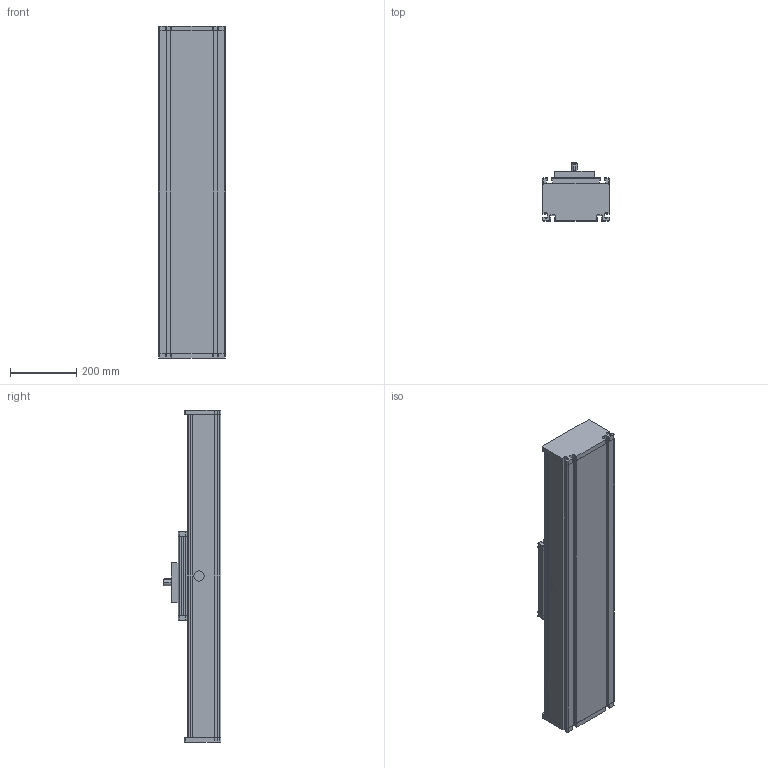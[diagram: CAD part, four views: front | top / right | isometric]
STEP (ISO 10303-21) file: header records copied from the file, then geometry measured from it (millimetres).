
FILE_DESCRIPTION (( 'STEP AP214' ), '1' );
FILE_NAME ('DSZA200.STEP', '2022-07-21T13:06:03', ( '' ), ( '' ), 'SwSTEP 2.0', 'SolidWorks 2020', '' );
FILE_SCHEMA (( 'AUTOMOTIVE_DESIGN' ));
Length unit declared in the file: millimetre
Products named in the file (5): end plate^DSZA200_0; profile^DSZA200_standard; bearing block^DSZA200_lubrication pos.1; carriage^DSZA200_carriage version 0; DSZA200
Assembly tree (5 placements, depth 2):
  DSZA200
    profile^DSZA200_standard
    carriage^DSZA200_carriage version 0
    bearing block^DSZA200_lubrication pos.1
    end plate^DSZA200_0  x2
Bounding box: 200.2 x 174 x 1000 mm (x, y, z)
Volume: 14482382.8 mm3; surface area: 2008506.7 mm2
Topology: 14 solids, 14 shells, 353 faces, 942 edges, 622 vertices
Faces by surface type: plane 265, cylinder 76, torus 8, cone 2, bspline 2
Entity records: 10829 total; most frequent: CARTESIAN_POINT 2051, ORIENTED_EDGE 1692, DIRECTION 1624, EDGE_CURVE 846, VECTOR 702, LINE 702, VERTEX_POINT 558, AXIS2_PLACEMENT_3D 461
